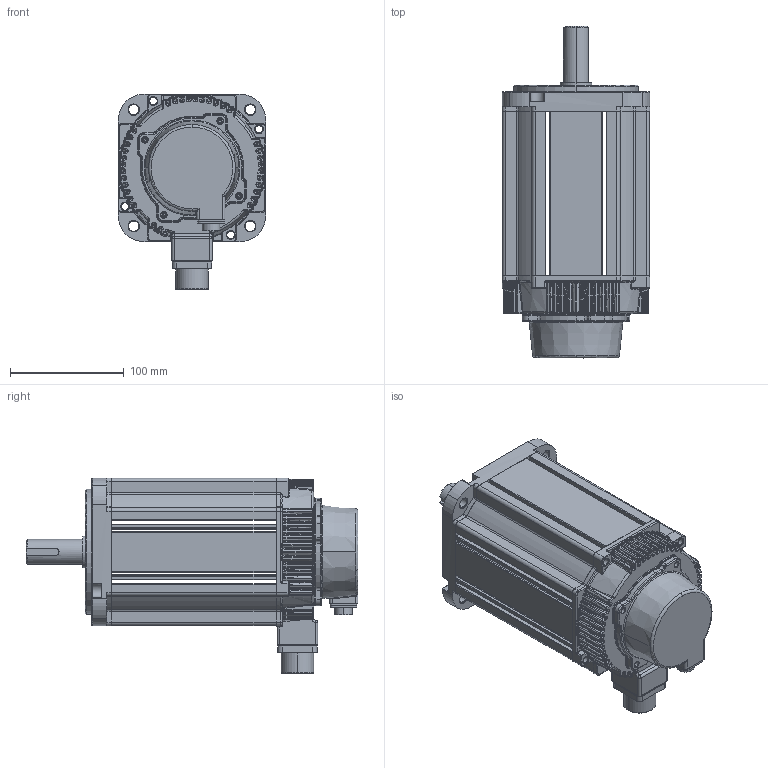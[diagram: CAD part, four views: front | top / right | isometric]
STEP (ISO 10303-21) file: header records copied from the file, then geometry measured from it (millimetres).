
FILE_DESCRIPTION (( 'STEP AP203' ), '1' );
FILE_NAME ('130BST-M17815.STEP', '2021-12-20T01:59:21', ( '' ), ( '' ), 'SwSTEP 2.0', 'SolidWorks 2015', '' );
FILE_SCHEMA (( 'CONFIG_CONTROL_DESIGN' ));
Products named in the file (1): 130BST-M17815
Bounding box: 130 x 292 x 172.35 mm (x, y, z)
Surface area: 175229.1 mm2 (no closed solid volume)
Topology: 0 solids, 30 shells, 1818 faces, 4674 edges, 2775 vertices
Faces by surface type: cylinder 608, bspline 365, plane 305, torus 300, sphere 140, cone 100
Entity records: 90639 total; most frequent: CARTESIAN_POINT 53194, ORIENTED_EDGE 8326, DIRECTION 6619, EDGE_CURVE 4494, AXIS2_PLACEMENT_3D 2749, VERTEX_POINT 2676, EDGE_LOOP 1903, B_SPLINE_CURVE_WITH_KNOTS 1847
